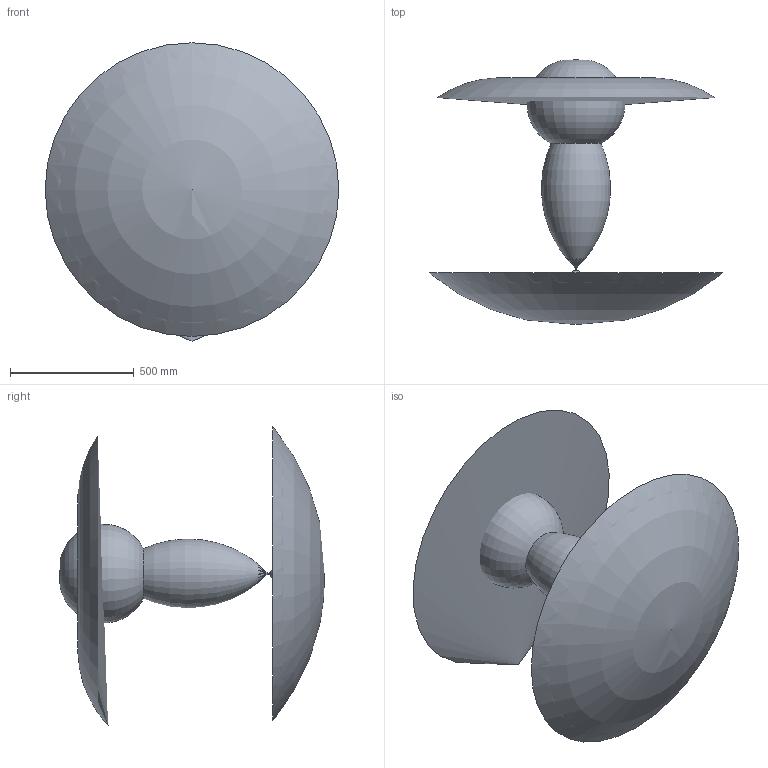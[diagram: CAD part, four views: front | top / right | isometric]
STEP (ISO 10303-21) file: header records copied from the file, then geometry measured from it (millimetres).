
FILE_DESCRIPTION (( 'STEP AP203' ), '1' );
FILE_NAME ('IRB1200GEN2_5kg-910_BTM_OC_00_Working-space.STEP', '2025-06-16T02:19:35', ( '' ), ( '' ), 'SwSTEP 2.0', 'SolidWorks 2022', '' );
FILE_SCHEMA (( 'CONFIG_CONTROL_DESIGN' ));
Length unit declared in the file: millimetre
Products named in the file (1): IRB1200GEN2_5kg-910_BTM_OC_00_Working-space
Bounding box: 1185.06 x 1069.43 x 1204.6 mm (x, y, z)
Volume: 309355144.6 mm3; surface area: 4668216.1 mm2
Topology: 2 solids, 2 shells, 7 faces, 16 edges, 11 vertices
Faces by surface type: torus 7
Entity records: 199 total; most frequent: DIRECTION 26, CARTESIAN_POINT 18, AXIS2_PLACEMENT_3D 13, EDGE_LOOP 10, ORIENTED_EDGE 10, FACE_OUTER_BOUND 10, PERSON_AND_ORGANIZATION 8, ADVANCED_FACE 7
